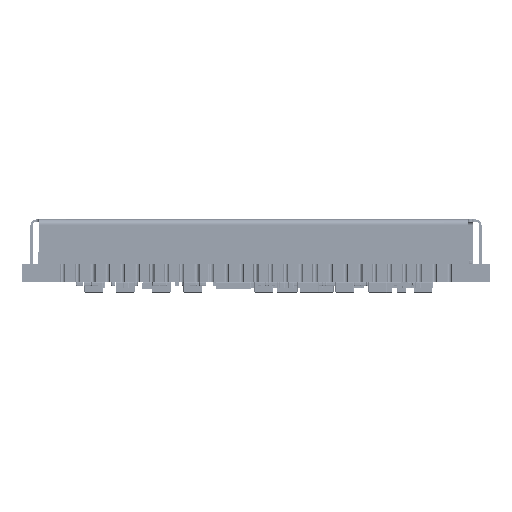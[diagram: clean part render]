
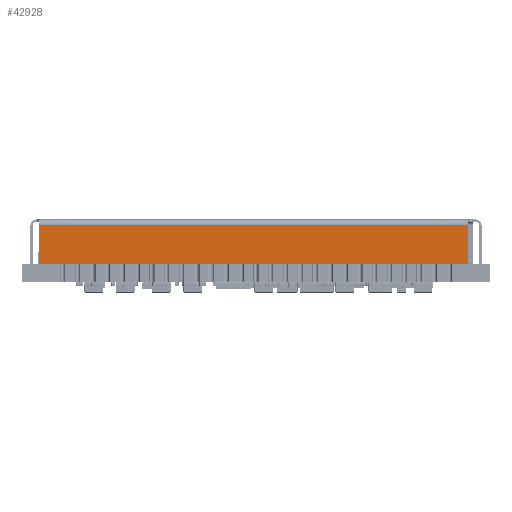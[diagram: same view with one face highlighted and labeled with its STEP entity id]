
A CAD part, front view. The second image highlights one B-rep face of the part: STEP entity #42928.
In plain terms, the highlighted planar face has unit normal (0, -1, 0).
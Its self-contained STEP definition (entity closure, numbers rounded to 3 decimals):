
#42710 = VERTEX_POINT('',#42711);
#42711 = CARTESIAN_POINT('',(18.159,-21.775,-0.5));
#42735 = VERTEX_POINT('',#42736);
#42736 = CARTESIAN_POINT('',(-18.509,-21.775,-0.5));
#42829 = EDGE_CURVE('',#42735,#42710,#42830,.T.);
#42830 = LINE('',#42831,#42832);
#42831 = CARTESIAN_POINT('',(19.275,-21.775,-0.5));
#42832 = VECTOR('',#42833,1.);
#42833 = DIRECTION('',(1.,0.,0.));
#42864 = VERTEX_POINT('',#42865);
#42865 = CARTESIAN_POINT('',(18.159,-21.775,-3.8));
#42871 = EDGE_CURVE('',#42864,#42872,#42874,.T.);
#42872 = VERTEX_POINT('',#42873);
#42873 = CARTESIAN_POINT('',(-18.509,-21.775,-3.8));
#42874 = LINE('',#42875,#42876);
#42875 = CARTESIAN_POINT('',(19.275,-21.775,-3.8));
#42876 = VECTOR('',#42877,1.);
#42877 = DIRECTION('',(-1.,0.,0.));
#42916 = EDGE_CURVE('',#42864,#42710,#42917,.T.);
#42917 = LINE('',#42918,#42919);
#42918 = CARTESIAN_POINT('',(18.159,-21.775,21.403));
#42919 = VECTOR('',#42920,1.);
#42920 = DIRECTION('',(0.,0.,1.));
#42928 = ADVANCED_FACE('',(#42929),#42940,.F.);
#42929 = FACE_BOUND('',#42930,.T.);
#42930 = EDGE_LOOP('',(#42931,#42932,#42933,#42939));
#42931 = ORIENTED_EDGE('',*,*,#42916,.T.);
#42932 = ORIENTED_EDGE('',*,*,#42829,.F.);
#42933 = ORIENTED_EDGE('',*,*,#42934,.T.);
#42934 = EDGE_CURVE('',#42735,#42872,#42935,.T.);
#42935 = LINE('',#42936,#42937);
#42936 = CARTESIAN_POINT('',(-18.509,-21.775,0.
    ));
#42937 = VECTOR('',#42938,1.);
#42938 = DIRECTION('',(0.,0.,-1.));
#42939 = ORIENTED_EDGE('',*,*,#42871,.F.);
#42940 = PLANE('',#42941);
#42941 = AXIS2_PLACEMENT_3D('',#42942,#42943,#42944);
#42942 = CARTESIAN_POINT('',(0.,-21.775,
    0.));
#42943 = DIRECTION('',(0.,1.,0.));
#42944 = DIRECTION('',(0.,0.,1.));
